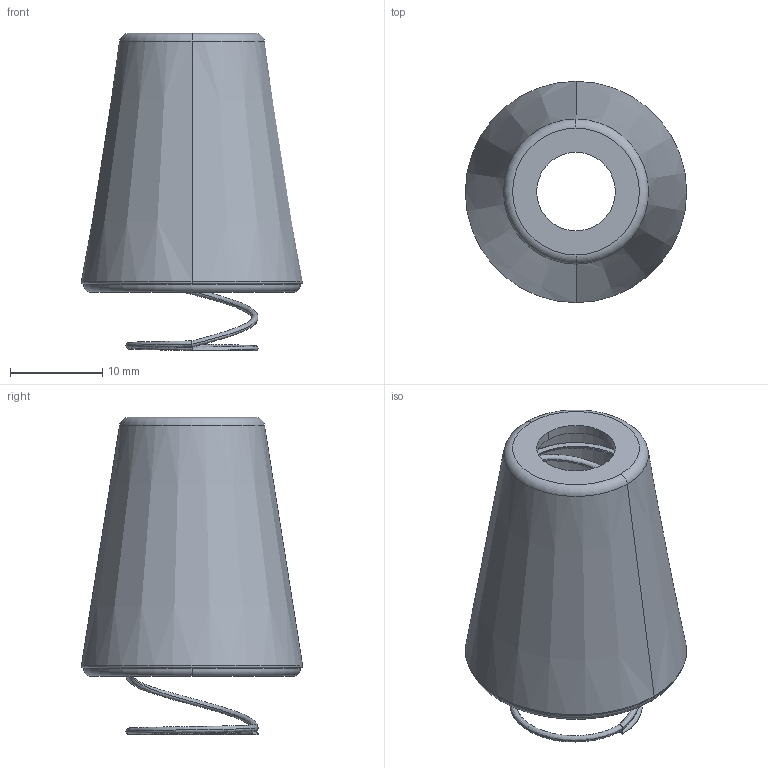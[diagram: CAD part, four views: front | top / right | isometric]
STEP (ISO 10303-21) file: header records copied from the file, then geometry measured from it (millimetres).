
FILE_DESCRIPTION((''),'2;1');
FILE_NAME('6158128830_ASM','2016-04-25T',('greextsd'),(''),'CREO PARAMETRIC BY PTC INC, 2015380','CREO PARAMETRIC BY PTC INC, 2015380','');
FILE_SCHEMA(('AUTOMOTIVE_DESIGN { 1 0 10303 214 1 1 1 1 }'));
Length unit declared in the file: millimetre
Products named in the file (4): 6155482700; 0663211579_AF0; 6156812110; 6158128830_ASM
Assembly tree (3 placements, depth 2):
  6158128830_ASM
    6155482700
    0663211579_AF0
    6156812110
Bounding box: 23.93 x 23.93 x 34.3 mm (x, y, z)
Volume: 3214.6 mm3; surface area: 4869.9 mm2
Topology: 3 solids, 4 shells, 52 faces, 106 edges, 62 vertices
Faces by surface type: torus 16, cylinder 14, plane 10, cone 6, bspline 6
Entity records: 5133 total; most frequent: CARTESIAN_POINT 2302, DIRECTION 268, PROPERTY_DEFINITION 228, REPRESENTATION 224, PROPERTY_DEFINITION_REPRESENTATION 224, ORIENTED_EDGE 206, DESCRIPTIVE_REPRESENTATION_ITEM 198, GENERAL_PROPERTY 194
